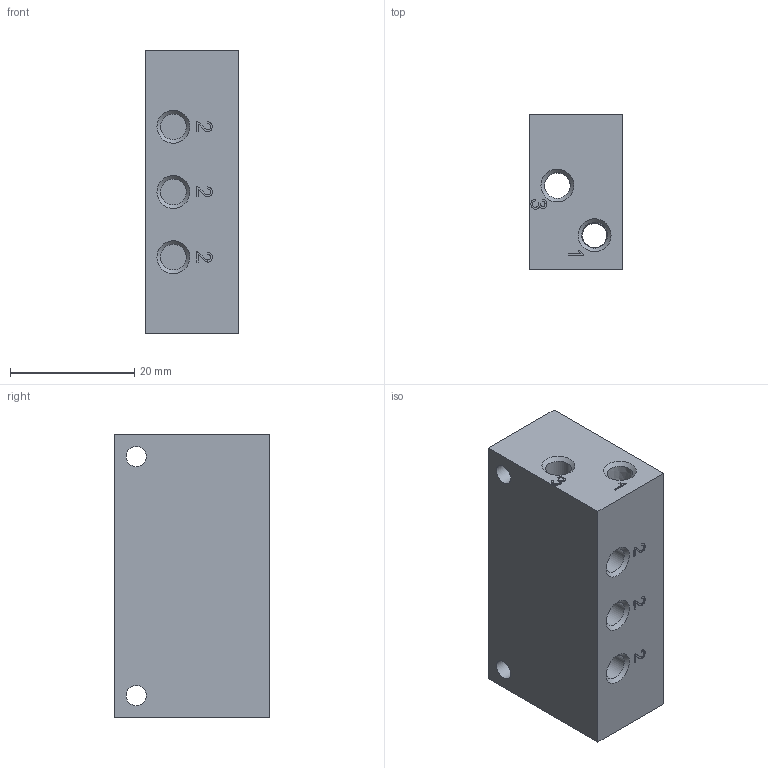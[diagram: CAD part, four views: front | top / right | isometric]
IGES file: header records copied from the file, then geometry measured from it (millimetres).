
Global section: file name: P395_03; native system: Autodesk Inventor 2014; preprocessor: unknown; date: 20160908.083121; units: millimetre
Bounding box: 15 x 25 x 45.5 mm (x, y, z)
Volume: 15124.7 mm3; surface area: 6161.2 mm2
Topology: 1 solids, 1 shells, 139 faces, 395 edges, 270 vertices
Faces by surface type: bspline 139
